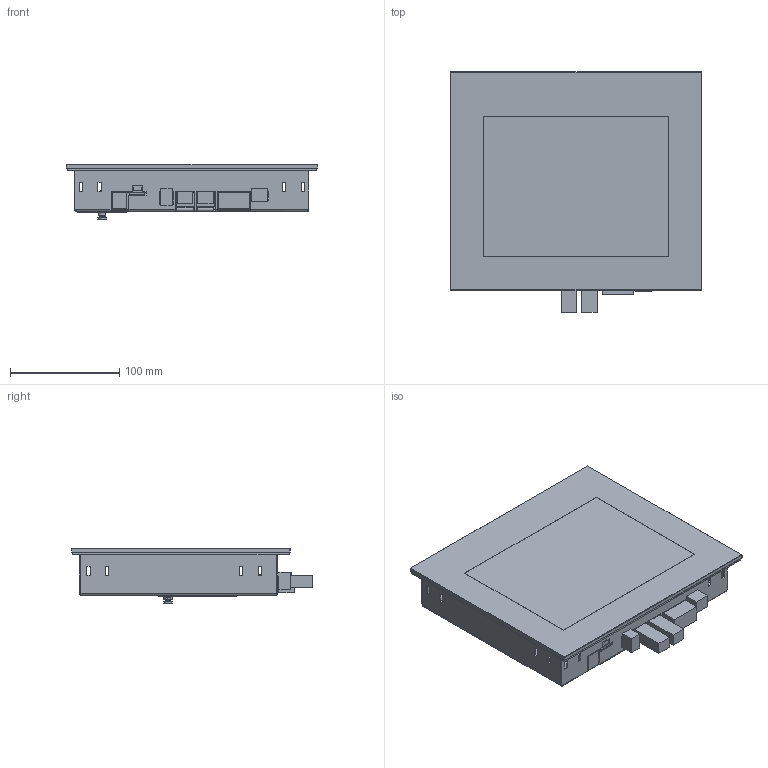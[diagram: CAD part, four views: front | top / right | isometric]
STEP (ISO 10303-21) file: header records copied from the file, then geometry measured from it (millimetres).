
FILE_DESCRIPTION (( 'STEP AP214' ), '1' );
FILE_NAME ('01-230-0833 ETT0833.STEP', '2016-03-09T07:44:52', ( 'SIGMATEK GmbH & Co KG' ), ( 'SIGMATEK GmbH & Co KG' ), 'SwSTEP 2.0', 'SolidWorks 2015', '' );
FILE_SCHEMA (( 'AUTOMOTIVE_DESIGN' ));
Length unit declared in the file: millimetre
Products named in the file (8): ZM1607-3920-10 Batteriedeckel ETTXX33_Ohne Beschriftung; ZM1607-3651-10 ETT0833 Abdeckhaube; 125500 (Leiterplatte); 01-230-0833 ETT0833; 8,4 Zoll Terminal_HT-Tech_07012016; Halsschraube M2,5x12,3 21101749; ZM1607-3920-10 Batteriedeckel ETTXX33; NTS Einpressnippel MSvernickelt 21100659
Assembly tree (7 placements, depth 3):
  01-230-0833 ETT0833
    125500 (Leiterplatte)
    ZM1607-3651-10 ETT0833 Abdeckhaube
    ZM1607-3920-10 Batteriedeckel ETTXX33
      ZM1607-3920-10 Batteriedeckel ETTXX33_Ohne Beschriftung
      NTS Einpressnippel MSvernickelt 21100659
    Halsschraube M2,5x12,3 21101749
    8,4 Zoll Terminal_HT-Tech_07012016
Bounding box: 230.4 x 220.7 x 50.9 mm (x, y, z)
Volume: 302743.3 mm3; surface area: 267048.2 mm2
Topology: 12 solids, 12 shells, 560 faces, 1488 edges, 959 vertices
Faces by surface type: plane 464, cylinder 70, cone 10, bspline 8, torus 8
Entity records: 19023 total; most frequent: CARTESIAN_POINT 3364, ORIENTED_EDGE 2972, DIRECTION 2714, EDGE_CURVE 1486, VECTOR 1296, LINE 1296, VERTEX_POINT 959, AXIS2_PLACEMENT_3D 709
